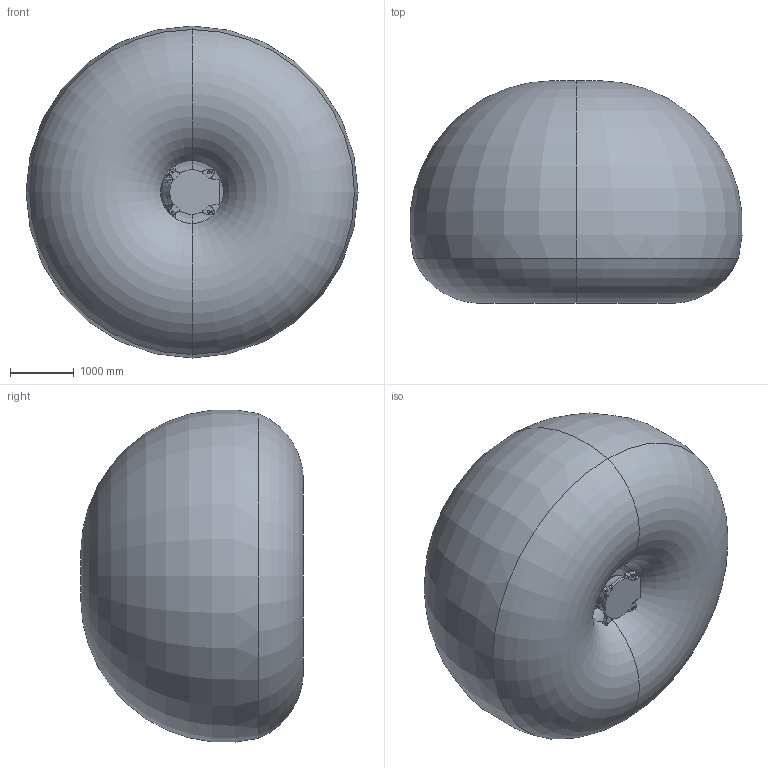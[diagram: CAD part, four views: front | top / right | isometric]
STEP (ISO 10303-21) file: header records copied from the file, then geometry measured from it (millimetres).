
FILE_DESCRIPTION (( 'STEP AP214' ), '1' );
FILE_NAME ('SMART-5 NJ-130-2.6 (3D-STEP).STEP', '2010-11-29T12:58:41', ( '' ), ( '' ), 'SwSTEP 2.0', 'SolidWorks 2007', '' );
FILE_SCHEMA (( 'AUTOMOTIVE_DESIGN' ));
Length unit declared in the file: millimetre
Products named in the file (16): SMART-5 NJ-130-2.6_p10; SMART-5 NJ-130-2.6_p09; SMART-5 NJ-130-2.6_CR82350030_SM; SMART-5 NJ-130-2.6_CR82350050_SM; SMART-5 NJ-130-2.6_CR82350080_SM; SMART-5 NJ-130-2.6_CR82350070_SM; SMART-5 NJ-130-2.6_p06; Operation Area SMART-5 NJ 130-2.6; SMART-5 NJ-130-2.6_p02; SMART-5 NJ-130-2.6_p01; SMART-5 NJ-130-2.6 (3D-STEP); SMART-5 NJ-130-2.6_p05; SMART-5 NJ-130-2.6_p04; SMART-5 NJ-130-2.6_p03; SMART-5 NJ-130-2.6_p08; SMART-5 NJ-130-2.6_p07
Assembly tree (16 placements, depth 2):
  SMART-5 NJ-130-2.6 (3D-STEP)
    Operation Area SMART-5 NJ 130-2.6
    SMART-5 NJ-130-2.6_p03
    SMART-5 NJ-130-2.6_p06
    SMART-5 NJ-130-2.6_CR82350050_SM
    SMART-5 NJ-130-2.6_p10
    SMART-5 NJ-130-2.6_CR82350070_SM  x2
    SMART-5 NJ-130-2.6_CR82350080_SM
    SMART-5 NJ-130-2.6_p05
    SMART-5 NJ-130-2.6_p01
    SMART-5 NJ-130-2.6_p07
    SMART-5 NJ-130-2.6_CR82350030_SM
    SMART-5 NJ-130-2.6_p02
    SMART-5 NJ-130-2.6_p04
    SMART-5 NJ-130-2.6_p09
    SMART-5 NJ-130-2.6_p08
Bounding box: 5222.07 x 3500.07 x 5222.07 mm (x, y, z)
Volume: 52880135973 mm3; surface area: 95115214.6 mm2
Topology: 16 solids, 17 shells, 2803 faces, 7461 edges, 4828 vertices
Faces by surface type: plane 1290, cylinder 999, bspline 290, cone 174, torus 50
Entity records: 116665 total; most frequent: CARTESIAN_POINT 44969, ORIENTED_EDGE 14152, DIRECTION 12676, EDGE_CURVE 7076, VERTEX_POINT 4650, AXIS2_PLACEMENT_3D 4434, VECTOR 3808, LINE 3808
